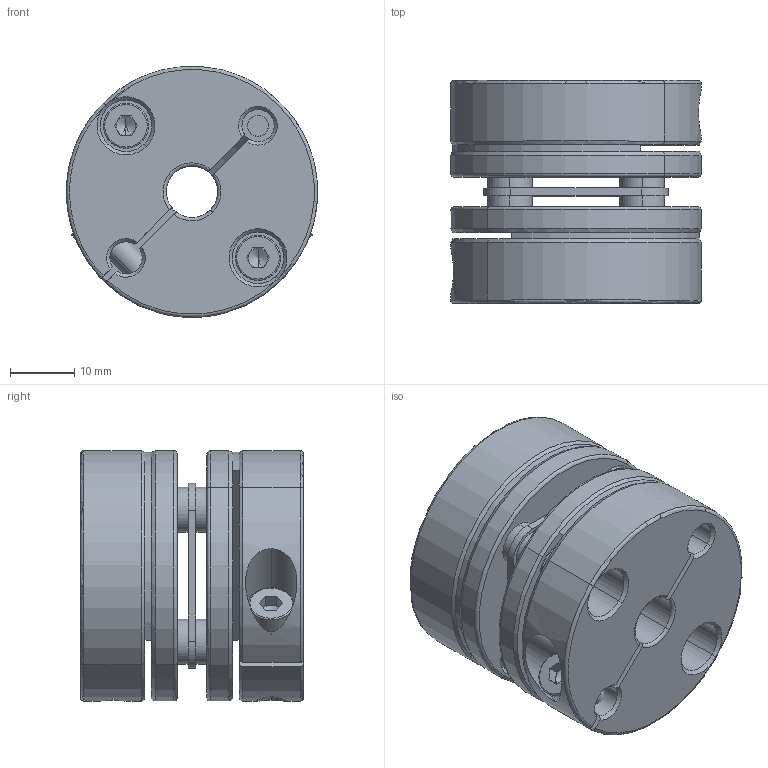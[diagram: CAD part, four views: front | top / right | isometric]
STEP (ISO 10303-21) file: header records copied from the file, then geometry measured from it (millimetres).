
FILE_DESCRIPTION (( 'STEP AP203' ), '1' );
FILE_NAME ('DXB-39X35-8-8.STEP', '2023-10-18T08:08:36', ( '' ), ( '' ), 'SwSTEP 2.0', 'SolidWorks 2020', '' );
FILE_SCHEMA (( 'CONFIG_CONTROL_DESIGN' ));
Length unit declared in the file: millimetre
Products named in the file (5): 39臚え薊粣ん傷裔; socket head cap screw_iso_ISO 4762 M4 x 12 - 12C; 39臚え郪; socket head cap screw_iso_ISO 4762 M4 x 8 - 8C; DXB-39X35-8-8
Assembly tree (9 placements, depth 2):
  DXB-39X35-8-8
    39臚え郪
    39臚え薊粣ん傷裔  x2
    socket head cap screw_iso_ISO 4762 M4 x 8 - 8C  x4
    socket head cap screw_iso_ISO 4762 M4 x 12 - 12C  x2
Bounding box: 39 x 34.6 x 38.94 mm (x, y, z)
Volume: 29928.8 mm3; surface area: 17358.3 mm2
Topology: 9 solids, 9 shells, 364 faces, 862 edges, 522 vertices
Faces by surface type: plane 136, cylinder 130, cone 54, torus 44
Entity records: 6230 total; most frequent: CARTESIAN_POINT 1197, DIRECTION 1001, ORIENTED_EDGE 858, EDGE_CURVE 429, AXIS2_PLACEMENT_3D 406, VERTEX_POINT 268, EDGE_LOOP 219, CIRCLE 214
